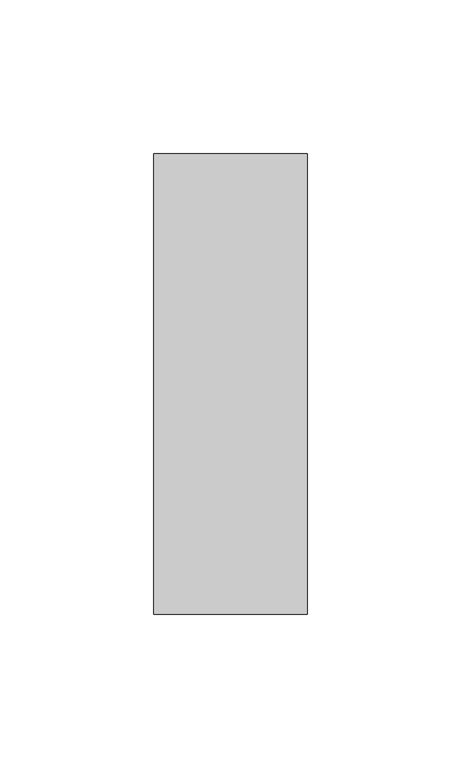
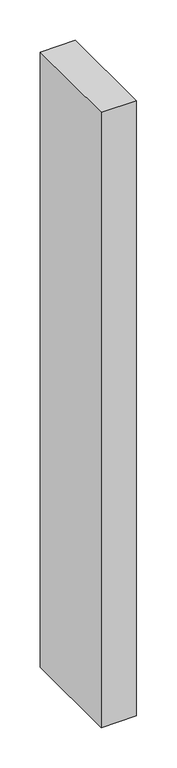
"""IFC4 building model written with IfcOpenShell, lengths in millimetres: member geometry, Прямоугольный импост : 50 x 150 мм."""

from ifc_helpers import new_model, si_unit, frame, origin, place, context, project, spatial, polyline, outline, extrude, source, transform, mapped, element, save


def member_f38f7683(model_context):
    return source(origin(), model_context, "Body", "SweptSolid", [
        extrude(outline(polyline([(25.0, 75.0), (25.0, -75.0), (-25.0, -75.0), (-25.0, 75.0), (25.0, 75.0)])), frame((0.0, 0.0, -928.4340567), z_axis=(0.0, 0.0, 1.0), x_axis=(1.0, 0.0, 0.0)), (0.0, 0.0, 1.0), 928.4340567),
    ])


if __name__ == "__main__":
    model = new_model("IFC4")
    model_context = context("Model", 3, world=origin())
    ifc_project = project(units=[si_unit("LENGTHUNIT", "METRE", prefix="MILLI")], contexts=[model_context])
    site = spatial("IfcSite", under=ifc_project)
    building = spatial("IfcBuilding", under=site)
    placement = place(None, origin())
    member_shape = member_f38f7683(model_context)
    element("IfcMember", 1, ObjectType="Прямоугольный импост : 50 x 150 мм", at=placement, inside=building, context=model_context, shape_type="MappedRepresentation", body=[
        mapped(member_shape, transform((0.0, 0.0, 0.0), x_axis=(1.0, 0.0, 0.0), y_axis=(0.0, 1.0, 0.0), z_axis=(0.0, 0.0, 1.0))),
    ])
    save(model, "model.ifc")
